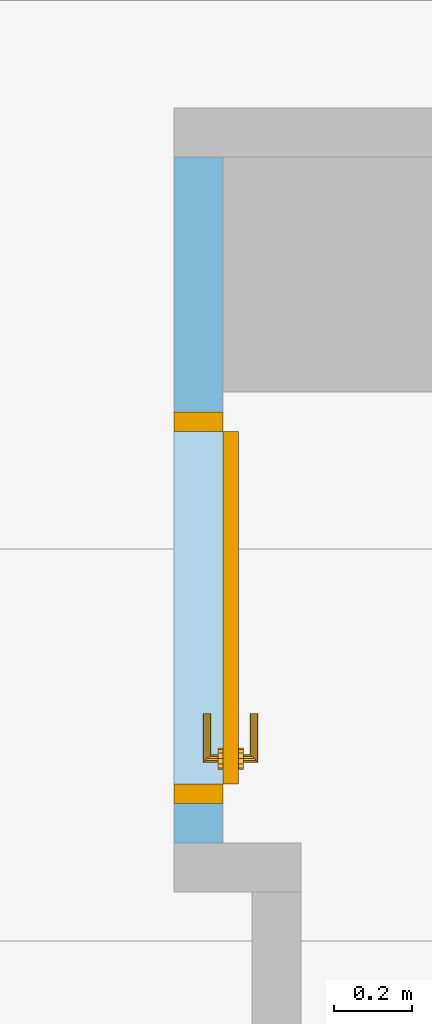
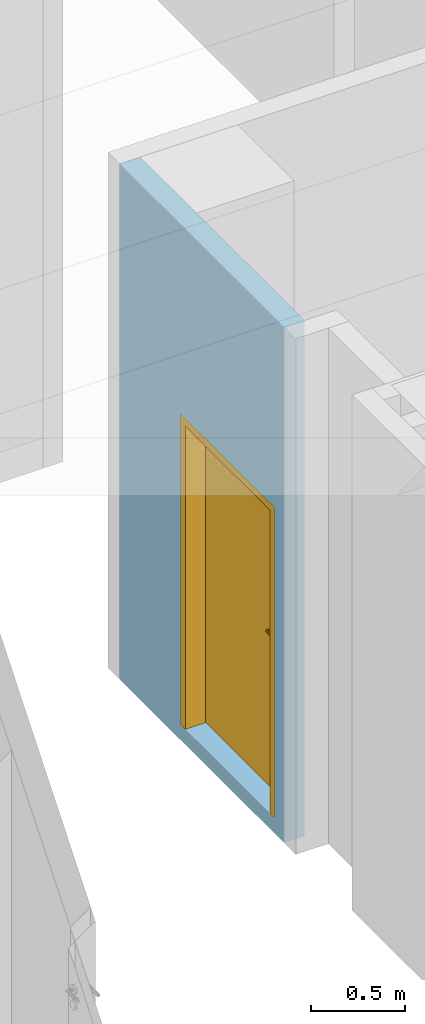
# One storey, part 90 of 140: 1 door, 1 opening, plus 1 element that does not belong to this part.
"""IFC4 building model written with IfcOpenShell, lengths in metres."""

from ifc_helpers import new_model, entity, si_unit, converted_unit, derived_unit, frame, frame_2d, origin, origin_with_axes, place, context, subcontext, project, spatial, polyline, rectangle, outline, extrude, closed_shell, open_shell, surface_model, source, transform, mapped, material, layer, layer_set, layer_usage, type_object, element, fill, save


model = new_model("IFC4")

# Units and contexts
model_context = context("Model", 3, precision=1e-05, world=origin())
body_context = subcontext(model_context, "Body", "Model", "MODEL_VIEW")
ifc_project = project(units=[si_unit("LENGTHUNIT", "METRE"), si_unit("AREAUNIT", "SQUARE_METRE"), si_unit("VOLUMEUNIT", "CUBIC_METRE"), si_unit("MASSUNIT", "GRAM", prefix="KILO"), converted_unit("PLANEANGLEUNIT", "DEGREE", entity("IfcPlaneAngleMeasure", 0.0174532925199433), si_unit("PLANEANGLEUNIT", "RADIAN"), dimensions=[0, 0, 0, 0, 0, 0, 0]), derived_unit("THERMALTRANSMITTANCEUNIT", [(si_unit("POWERUNIT", "WATT"), 1), (si_unit("THERMODYNAMICTEMPERATUREUNIT", "KELVIN"), -1), (si_unit("LENGTHUNIT", "METRE"), -2)]), derived_unit("VOLUMETRICFLOWRATEUNIT", [(si_unit("LENGTHUNIT", "METRE"), 3), (converted_unit("TIMEUNIT", "hour", entity("IfcTimeMeasure", 3600.0), si_unit("TIMEUNIT", "SECOND"), dimensions=[0, 0, 1, 0, 0, 0, 0]), -1), (si_unit("LENGTHUNIT", "METRE"), -1)])], contexts=[model_context])

# Site, building, storey
site_placement = place(None, origin())
site = spatial("IfcSite", under=ifc_project, at=site_placement, Name="3. ASŘ", CompositionType="ELEMENT")
building_placement = place(site_placement, origin())
building = spatial("IfcBuilding", under=site, at=building_placement, Name="Pavilon C", CompositionType="ELEMENT")
storey_placement = place(building_placement, origin())
storey = spatial("IfcBuildingStorey", under=building, at=storey_placement, Name="Půdorys 1.NP", CompositionType="ELEMENT", Elevation=0.0)

# Wall, opening, door
ifc_material = material(Name="ZDIVO Z CDm")
ifc_layer = layer(ifc_material, 0.125)
ifc_layer_set = layer_set([ifc_layer])
ifc_layer_usage = layer_usage(ifc_layer_set, "AXIS2", "POSITIVE", 0.0)
wall_placement = place(storey_placement, frame((34.05, 17.75, -0.1), z_axis=(0.0, 0.0, 1.0), x_axis=(0.0, 1.0, 0.0)))
wall = element("IfcWall", 1, at=wall_placement, inside=storey, material=ifc_layer_usage, Name="ZDIVO Z CDm", context=body_context, shape_type="SweptSolid", body=[
    extrude(rectangle(XDim=1.75, YDim=0.125, at=frame_2d((0.875, 0.0625), x_axis=(1.0, 0.0))), origin_with_axes(), (0.0, 0.0, 1.0), 3.35),
])
opening_placement = place(wall_placement, frame((1.09999999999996, 0.125, 0.1), z_axis=(0.0, -1.0, 0.0), x_axis=(0.0, 0.0, 1.0)))
opening = element("IfcOpeningElement", 2, at=opening_placement, cuts=wall, Name="Dveřní otvor", ObjectType="Opening", context=body_context, shape_type="SweptSolid", body=[
    extrude(outline(polyline([(0.0, 1.0), (2.02, 1.0), (2.02, 0.0), (0.0, 0.0), (0.0, 1.0)])), origin_with_axes(), (0.0, 0.0, 1.0), 0.125),
])
door_type = type_object("IfcDoorType", Name="D101", OperationType="NOTDEFINED", ParameterTakesPrecedence=False, PredefinedType="DOOR")
shared_shape = source(origin_with_axes(), body_context, "Body", "SurfaceModel", [
    surface_model("IfcShellBasedSurfaceModel", [(0.0, 0.125, 2.02), (0.0, 0.125, -7.65404249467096e-18), (0.05, 0.125, -7.65404249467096e-18), (0.05, 0.125, 2.02), (0.0, 0.0, 7.65404249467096e-18), (0.0, 2.41584530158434e-16, 2.02), (0.05, 2.41584530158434e-16, 2.02), (0.05, 0.0, 7.65404249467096e-18)], [closed_shell([[[0, 1, 2, 3]], [[4, 5, 6, 7]], [[1, 0, 5, 4]], [[2, 1, 4, 7]], [[3, 2, 7, 6]], [[0, 3, 6, 5]]], orient=[[False], [False], [False], [False], [False], [False]])]),
    surface_model("IfcShellBasedSurfaceModel", [(0.95, 0.125, 2.02), (0.95, 0.125, -7.65404249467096e-18), (1.0, 0.125, -7.65404249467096e-18), (1.0, 0.125, 2.02), (0.95, 0.0, 7.65404249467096e-18), (0.95, 2.41584530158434e-16, 2.02), (1.0, 2.41584530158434e-16, 2.02), (1.0, 0.0, 7.65404249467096e-18)], [closed_shell([[[0, 1, 2, 3]], [[4, 5, 6, 7]], [[1, 0, 5, 4]], [[2, 1, 4, 7]], [[3, 2, 7, 6]], [[0, 3, 6, 5]]], orient=[[False], [False], [False], [False], [False], [False]])]),
    surface_model("IfcShellBasedSurfaceModel", [(0.05, 0.125, 2.02), (0.05, 0.125, 1.97), (0.95, 0.125, 1.97), (0.95, 0.125, 2.02), (0.05, 2.41584530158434e-16, 1.97), (0.05, 2.41584530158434e-16, 2.02), (0.95, 2.41584530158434e-16, 2.02), (0.95, 2.41584530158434e-16, 1.97)], [closed_shell([[[0, 1, 2, 3]], [[4, 5, 6, 7]], [[1, 0, 5, 4]], [[2, 1, 4, 7]], [[3, 2, 7, 6]], [[0, 3, 6, 5]]], orient=[[False], [False], [False], [False], [False], [False]])]),
    surface_model("IfcShellBasedSurfaceModel", [(0.05, 0.165, 1.97), (0.05, 0.165, -1.25526296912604e-17), (0.95, 0.165, -1.25526296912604e-17), (0.95, 0.165, 1.97), (0.05, 0.125, -7.65404249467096e-18), (0.05, 0.125, 1.97), (0.95, 0.125, 1.97), (0.95, 0.125, -7.65404249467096e-18)], [closed_shell([[[0, 1, 2, 3]], [[4, 5, 6, 7]], [[1, 0, 5, 4]], [[2, 1, 4, 7]], [[3, 2, 7, 6]], [[0, 3, 6, 5]]], orient=[[False], [False], [False], [False], [False], [False]])]),
    surface_model("IfcShellBasedSurfaceModel", [(0.908815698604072, 0.125, 0.93625), (0.9125, 0.125, 0.95), (0.908815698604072, 0.125, 0.96375), (0.89875, 0.125, 0.973815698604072), (0.885, 0.125, 0.9775), (0.87125, 0.125, 0.973815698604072), (0.861184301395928, 0.125, 0.96375), (0.8575, 0.125, 0.95), (0.861184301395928, 0.125, 0.93625), (0.87125, 0.125, 0.926184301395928), (0.885, 0.125, 0.9225), (0.89875, 0.125, 0.926184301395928), (0.9125, 0.1125, 0.95), (0.908815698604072, 0.1125, 0.93625), (0.89875, 0.1125, 0.926184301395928), (0.885, 0.1125, 0.9225), (0.87125, 0.1125, 0.926184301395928), (0.861184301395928, 0.1125, 0.93625), (0.8575, 0.1125, 0.95), (0.861184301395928, 0.1125, 0.96375), (0.87125, 0.1125, 0.973815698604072), (0.885, 0.1125, 0.9775), (0.89875, 0.1125, 0.973815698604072), (0.908815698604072, 0.1125, 0.96375)], [closed_shell([[[0, 1, 2, 3, 4, 5, 6, 7, 8, 9, 10, 11]], [[12, 13, 14, 15, 16, 17, 18, 19, 20, 21, 22, 23]], [[1, 0, 13, 12]], [[2, 1, 12, 23]], [[3, 2, 23, 22]], [[4, 3, 22, 21]], [[5, 4, 21, 20]], [[6, 5, 20, 19]], [[7, 6, 19, 18]], [[8, 7, 18, 17]], [[9, 8, 17, 16]], [[10, 9, 16, 15]], [[11, 10, 15, 14]], [[0, 11, 14, 13]]], orient=[[False], [False], [False], [False], [False], [False], [False], [False], [False], [False], [False], [False], [False], [False]])]),
    surface_model("IfcShellBasedSurfaceModel", [(0.908815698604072, 0.125, 1.03625), (0.9125, 0.125, 1.05), (0.908815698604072, 0.125, 1.06375), (0.89875, 0.125, 1.07381569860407), (0.885, 0.125, 1.0775), (0.87125, 0.125, 1.07381569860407), (0.861184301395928, 0.125, 1.06375), (0.8575, 0.125, 1.05), (0.861184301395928, 0.125, 1.03625), (0.87125, 0.125, 1.02618430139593), (0.885, 0.125, 1.0225), (0.89875, 0.125, 1.02618430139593), (0.9125, 0.1125, 1.05), (0.908815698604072, 0.1125, 1.03625), (0.89875, 0.1125, 1.02618430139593), (0.885, 0.1125, 1.0225), (0.87125, 0.1125, 1.02618430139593), (0.861184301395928, 0.1125, 1.03625), (0.8575, 0.1125, 1.05), (0.861184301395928, 0.1125, 1.06375), (0.87125, 0.1125, 1.07381569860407), (0.885, 0.1125, 1.0775), (0.89875, 0.1125, 1.07381569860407), (0.908815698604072, 0.1125, 1.06375)], [closed_shell([[[0, 1, 2, 3, 4, 5, 6, 7, 8, 9, 10, 11]], [[12, 13, 14, 15, 16, 17, 18, 19, 20, 21, 22, 23]], [[1, 0, 13, 12]], [[2, 1, 12, 23]], [[3, 2, 23, 22]], [[4, 3, 22, 21]], [[5, 4, 21, 20]], [[6, 5, 20, 19]], [[7, 6, 19, 18]], [[8, 7, 18, 17]], [[9, 8, 17, 16]], [[10, 9, 16, 15]], [[11, 10, 15, 14]], [[0, 11, 14, 13]]], orient=[[False], [False], [False], [False], [False], [False], [False], [False], [False], [False], [False], [False], [False], [False]])]),
    surface_model("IfcShellBasedSurfaceModel", [(0.885, 0.125, 1.06), (0.88, 0.125, 1.05866025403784), (0.876339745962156, 0.125, 1.055), (0.875, 0.125, 1.05), (0.876339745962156, 0.125, 1.045), (0.88, 0.125, 1.04133974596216), (0.885, 0.125, 1.04), (0.89, 0.125, 1.04133974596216), (0.893660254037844, 0.125, 1.045), (0.895, 0.125, 1.05), (0.893660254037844, 0.125, 1.055), (0.89, 0.125, 1.05866025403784), (0.89, 0.0800000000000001, 1.05866025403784), (0.885, 0.0850000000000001, 1.06), (0.893660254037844, 0.0763397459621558, 1.055), (0.895, 0.0750000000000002, 1.05), (0.893660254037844, 0.0763397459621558, 1.045), (0.89, 0.0800000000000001, 1.04133974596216), (0.885, 0.0850000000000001, 1.04), (0.88, 0.0900000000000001, 1.04133974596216), (0.876339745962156, 0.0936602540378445, 1.045), (0.875, 0.0950000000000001, 1.05), (0.876339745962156, 0.0936602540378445, 1.055), (0.88, 0.0900000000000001, 1.05866025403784), (0.77, 0.0800000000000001, 1.05866025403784), (0.77, 0.0850000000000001, 1.06), (0.77, 0.0763397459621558, 1.055), (0.77, 0.0750000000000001, 1.05), (0.77, 0.0763397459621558, 1.045), (0.77, 0.0800000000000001, 1.04133974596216), (0.77, 0.0850000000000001, 1.04), (0.77, 0.0900000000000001, 1.04133974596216), (0.77, 0.0936602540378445, 1.045), (0.77, 0.0950000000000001, 1.05), (0.77, 0.0936602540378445, 1.055), (0.77, 0.0900000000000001, 1.05866025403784)], [open_shell([[[0, 1, 2, 3, 4, 5, 6, 7, 8, 9, 10, 11]], [[0, 11, 12, 13]], [[11, 10, 14, 12]], [[10, 9, 15, 14]], [[9, 8, 16, 15]], [[8, 7, 17, 16]], [[7, 6, 18, 17]], [[6, 5, 19, 18]], [[5, 4, 20, 19]], [[4, 3, 21, 20]], [[3, 2, 22, 21]], [[2, 1, 23, 22]], [[1, 0, 13, 23]], [[13, 12, 24, 25]], [[12, 14, 26, 24]], [[14, 15, 27, 26]], [[15, 16, 28, 27]], [[16, 17, 29, 28]], [[17, 18, 30, 29]], [[18, 19, 31, 30]], [[19, 20, 32, 31]], [[20, 21, 33, 32]], [[21, 22, 34, 33]], [[22, 23, 35, 34]], [[23, 13, 25, 35]]], orient=[[False], [False], [False], [False], [False], [False], [False], [False], [False], [False], [False], [False], [False], [False], [False], [False], [False], [False], [False], [False], [False], [False], [False], [False], [False]])]),
    surface_model("IfcShellBasedSurfaceModel", [(0.908815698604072, 0.165, 0.93625), (0.89875, 0.165, 0.926184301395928), (0.885, 0.165, 0.9225), (0.87125, 0.165, 0.926184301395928), (0.861184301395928, 0.165, 0.93625), (0.8575, 0.165, 0.95), (0.861184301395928, 0.165, 0.96375), (0.87125, 0.165, 0.973815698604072), (0.885, 0.165, 0.9775), (0.89875, 0.165, 0.973815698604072), (0.908815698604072, 0.165, 0.96375), (0.9125, 0.165, 0.95), (0.9125, 0.1775, 0.95), (0.908815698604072, 0.1775, 0.96375), (0.89875, 0.1775, 0.973815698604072), (0.885, 0.1775, 0.9775), (0.87125, 0.1775, 0.973815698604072), (0.861184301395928, 0.1775, 0.96375), (0.8575, 0.1775, 0.95), (0.861184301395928, 0.1775, 0.93625), (0.87125, 0.1775, 0.926184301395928), (0.885, 0.1775, 0.9225), (0.89875, 0.1775, 0.926184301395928), (0.908815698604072, 0.1775, 0.93625)], [closed_shell([[[0, 1, 2, 3, 4, 5, 6, 7, 8, 9, 10, 11]], [[12, 13, 14, 15, 16, 17, 18, 19, 20, 21, 22, 23]], [[11, 12, 23, 0]], [[10, 13, 12, 11]], [[9, 14, 13, 10]], [[8, 15, 14, 9]], [[7, 16, 15, 8]], [[6, 17, 16, 7]], [[5, 18, 17, 6]], [[4, 19, 18, 5]], [[3, 20, 19, 4]], [[2, 21, 20, 3]], [[1, 22, 21, 2]], [[0, 23, 22, 1]]], orient=[[False], [False], [False], [False], [False], [False], [False], [False], [False], [False], [False], [False], [False], [False]])]),
    surface_model("IfcShellBasedSurfaceModel", [(0.908815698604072, 0.165, 1.03625), (0.89875, 0.165, 1.02618430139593), (0.885, 0.165, 1.0225), (0.87125, 0.165, 1.02618430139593), (0.861184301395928, 0.165, 1.03625), (0.8575, 0.165, 1.05), (0.861184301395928, 0.165, 1.06375), (0.87125, 0.165, 1.07381569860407), (0.885, 0.165, 1.0775), (0.89875, 0.165, 1.07381569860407), (0.908815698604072, 0.165, 1.06375), (0.9125, 0.165, 1.05), (0.9125, 0.1775, 1.05), (0.908815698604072, 0.1775, 1.06375), (0.89875, 0.1775, 1.07381569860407), (0.885, 0.1775, 1.0775), (0.87125, 0.1775, 1.07381569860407), (0.861184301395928, 0.1775, 1.06375), (0.8575, 0.1775, 1.05), (0.861184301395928, 0.1775, 1.03625), (0.87125, 0.1775, 1.02618430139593), (0.885, 0.1775, 1.0225), (0.89875, 0.1775, 1.02618430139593), (0.908815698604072, 0.1775, 1.03625)], [closed_shell([[[0, 1, 2, 3, 4, 5, 6, 7, 8, 9, 10, 11]], [[12, 13, 14, 15, 16, 17, 18, 19, 20, 21, 22, 23]], [[11, 12, 23, 0]], [[10, 13, 12, 11]], [[9, 14, 13, 10]], [[8, 15, 14, 9]], [[7, 16, 15, 8]], [[6, 17, 16, 7]], [[5, 18, 17, 6]], [[4, 19, 18, 5]], [[3, 20, 19, 4]], [[2, 21, 20, 3]], [[1, 22, 21, 2]], [[0, 23, 22, 1]]], orient=[[False], [False], [False], [False], [False], [False], [False], [False], [False], [False], [False], [False], [False], [False]])]),
    surface_model("IfcShellBasedSurfaceModel", [(0.885, 0.165, 1.06), (0.89, 0.165, 1.05866025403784), (0.893660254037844, 0.165, 1.055), (0.895, 0.165, 1.05), (0.893660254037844, 0.165, 1.045), (0.89, 0.165, 1.04133974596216), (0.885, 0.165, 1.04), (0.88, 0.165, 1.04133974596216), (0.876339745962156, 0.165, 1.045), (0.875, 0.165, 1.05), (0.876339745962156, 0.165, 1.055), (0.88, 0.165, 1.05866025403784), (0.885, 0.205, 1.06), (0.89, 0.21, 1.05866025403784), (0.893660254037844, 0.213660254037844, 1.055), (0.895, 0.215, 1.05), (0.893660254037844, 0.213660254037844, 1.045), (0.89, 0.21, 1.04133974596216), (0.885, 0.205, 1.04), (0.88, 0.2, 1.04133974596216), (0.876339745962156, 0.196339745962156, 1.045), (0.875, 0.195, 1.05), (0.876339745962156, 0.196339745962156, 1.055), (0.88, 0.2, 1.05866025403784), (0.77, 0.205, 1.06), (0.77, 0.21, 1.05866025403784), (0.77, 0.213660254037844, 1.055), (0.77, 0.215, 1.05), (0.77, 0.213660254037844, 1.045), (0.77, 0.21, 1.04133974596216), (0.77, 0.205, 1.04), (0.77, 0.2, 1.04133974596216), (0.77, 0.196339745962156, 1.045), (0.77, 0.195, 1.05), (0.77, 0.196339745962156, 1.055), (0.77, 0.2, 1.05866025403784)], [open_shell([[[0, 1, 2, 3, 4, 5, 6, 7, 8, 9, 10, 11]], [[0, 12, 13, 1]], [[1, 13, 14, 2]], [[2, 14, 15, 3]], [[3, 15, 16, 4]], [[4, 16, 17, 5]], [[5, 17, 18, 6]], [[6, 18, 19, 7]], [[7, 19, 20, 8]], [[8, 20, 21, 9]], [[9, 21, 22, 10]], [[10, 22, 23, 11]], [[11, 23, 12, 0]], [[12, 24, 25, 13]], [[13, 25, 26, 14]], [[14, 26, 27, 15]], [[15, 27, 28, 16]], [[16, 28, 29, 17]], [[17, 29, 30, 18]], [[18, 30, 31, 19]], [[19, 31, 32, 20]], [[20, 32, 33, 21]], [[21, 33, 34, 22]], [[22, 34, 35, 23]], [[23, 35, 24, 12]]], orient=[[False], [False], [False], [False], [False], [False], [False], [False], [False], [False], [False], [False], [False], [False], [False], [False], [False], [False], [False], [False], [False], [False], [False], [False], [False]])]),
])
door_placement = place(opening_placement, frame((0.0, 7.27595761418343e-15, -1.45519152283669e-14), z_axis=(1.0, 0.0, 0.0), x_axis=(0.0, 1.0, 1.22464679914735e-16)))
door = element("IfcDoor", 3, at=door_placement, inside=storey, type_object=door_type, Name="D101", OverallHeight=2.02, OverallWidth=1.0, context=body_context, shape_type="MappedRepresentation", body=[
    mapped(shared_shape, transform((0.0, 0.0, 0.0), x_axis=(1.0, 0.0, 0.0), y_axis=(0.0, 1.0, 0.0), z_axis=(0.0, 0.0, 1.0), scale=1.0)),
])
fill(opening, door)

save(model, "model.ifc")
